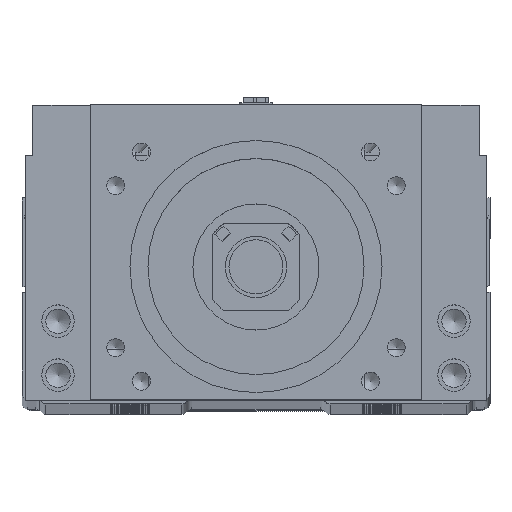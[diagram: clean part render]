
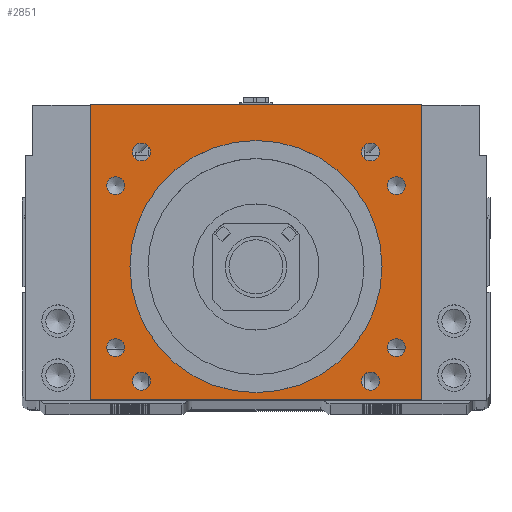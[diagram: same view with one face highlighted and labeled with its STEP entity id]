
A CAD part, top view. The second image highlights one B-rep face of the part: STEP entity #2851.
In plain terms, the highlighted planar face has unit normal (0, 0, 1).
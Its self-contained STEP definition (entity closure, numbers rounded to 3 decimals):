
#1964=FACE_BOUND('',#5139,.T.);
#1965=FACE_BOUND('',#5140,.T.);
#1966=FACE_BOUND('',#5141,.T.);
#1967=FACE_BOUND('',#5142,.T.);
#1968=FACE_BOUND('',#5143,.T.);
#1969=FACE_BOUND('',#5144,.T.);
#1970=FACE_BOUND('',#5145,.T.);
#1971=FACE_BOUND('',#5146,.T.);
#1972=FACE_BOUND('',#5147,.T.);
#1973=FACE_BOUND('',#5148,.T.);
#2851=ADVANCED_FACE('',(#1964,#1965,#1966,#1967,#1968,#1969,#1970,#1971,
#1972,#1973),#3640,.T.);
#3640=PLANE('',#17872);
#5139=EDGE_LOOP('',(#8363,#8364,#8365,#8366));
#5140=EDGE_LOOP('',(#8367));
#5141=EDGE_LOOP('',(#8368));
#5142=EDGE_LOOP('',(#8369));
#5143=EDGE_LOOP('',(#8370));
#5144=EDGE_LOOP('',(#8371));
#5145=EDGE_LOOP('',(#8372));
#5146=EDGE_LOOP('',(#8373));
#5147=EDGE_LOOP('',(#8374));
#5148=EDGE_LOOP('',(#8375));
#6273=CIRCLE('',#17862,35.015);
#6274=CIRCLE('',#17864,2.5);
#6275=CIRCLE('',#17865,2.5);
#6276=CIRCLE('',#17866,2.5);
#6277=CIRCLE('',#17867,2.5);
#6278=CIRCLE('',#17868,2.5);
#6279=CIRCLE('',#17869,2.5);
#6280=CIRCLE('',#17870,2.5);
#6281=CIRCLE('',#17871,2.5);
#8363=ORIENTED_EDGE('',*,*,#13268,.T.);
#8364=ORIENTED_EDGE('',*,*,#13256,.T.);
#8365=ORIENTED_EDGE('',*,*,#13263,.T.);
#8366=ORIENTED_EDGE('',*,*,#13273,.T.);
#8367=ORIENTED_EDGE('',*,*,#13281,.F.);
#8368=ORIENTED_EDGE('',*,*,#13282,.T.);
#8369=ORIENTED_EDGE('',*,*,#13283,.T.);
#8370=ORIENTED_EDGE('',*,*,#13284,.F.);
#8371=ORIENTED_EDGE('',*,*,#13280,.F.);
#8372=ORIENTED_EDGE('',*,*,#13285,.T.);
#8373=ORIENTED_EDGE('',*,*,#13286,.T.);
#8374=ORIENTED_EDGE('',*,*,#13287,.T.);
#8375=ORIENTED_EDGE('',*,*,#13288,.T.);
#11459=VERTEX_POINT('',#25474);
#11460=VERTEX_POINT('',#25476);
#11464=VERTEX_POINT('',#25487);
#11466=VERTEX_POINT('',#25498);
#11472=VERTEX_POINT('',#25522);
#11473=VERTEX_POINT('',#25525);
#11474=VERTEX_POINT('',#25527);
#11475=VERTEX_POINT('',#25529);
#11476=VERTEX_POINT('',#25531);
#11477=VERTEX_POINT('',#25533);
#11478=VERTEX_POINT('',#25535);
#11479=VERTEX_POINT('',#25537);
#11480=VERTEX_POINT('',#25539);
#13256=EDGE_CURVE('',#11460,#11459,#14984,.T.);
#13263=EDGE_CURVE('',#11459,#11464,#14989,.T.);
#13268=EDGE_CURVE('',#11466,#11460,#14994,.T.);
#13273=EDGE_CURVE('',#11464,#11466,#14999,.T.);
#13280=EDGE_CURVE('',#11472,#11472,#6273,.T.);
#13281=EDGE_CURVE('',#11473,#11473,#6274,.T.);
#13282=EDGE_CURVE('',#11474,#11474,#6275,.T.);
#13283=EDGE_CURVE('',#11475,#11475,#6276,.T.);
#13284=EDGE_CURVE('',#11476,#11476,#6277,.T.);
#13285=EDGE_CURVE('',#11477,#11477,#6278,.T.);
#13286=EDGE_CURVE('',#11478,#11478,#6279,.T.);
#13287=EDGE_CURVE('',#11479,#11479,#6280,.T.);
#13288=EDGE_CURVE('',#11480,#11480,#6281,.T.);
#14984=LINE('',#25475,#16313);
#14989=LINE('',#25489,#16318);
#14994=LINE('',#25497,#16323);
#14999=LINE('',#25506,#16328);
#16313=VECTOR('',#20630,1.);
#16318=VECTOR('',#20641,1.);
#16323=VECTOR('',#20652,1.);
#16328=VECTOR('',#20659,1.);
#17862=AXIS2_PLACEMENT_3D('',#25521,#20678,#20679);
#17864=AXIS2_PLACEMENT_3D('',#25524,#20682,#20683);
#17865=AXIS2_PLACEMENT_3D('',#25526,#20684,#20685);
#17866=AXIS2_PLACEMENT_3D('',#25528,#20686,#20687);
#17867=AXIS2_PLACEMENT_3D('',#25530,#20688,#20689);
#17868=AXIS2_PLACEMENT_3D('',#25532,#20690,#20691);
#17869=AXIS2_PLACEMENT_3D('',#25534,#20692,#20693);
#17870=AXIS2_PLACEMENT_3D('',#25536,#20694,#20695);
#17871=AXIS2_PLACEMENT_3D('',#25538,#20696,#20697);
#17872=AXIS2_PLACEMENT_3D('',#25540,#20698,#20699);
#20630=DIRECTION('',(-1.,0.,0.));
#20641=DIRECTION('',(0.,-1.,0.));
#20652=DIRECTION('',(0.,1.,0.));
#20659=DIRECTION('',(1.,0.,0.));
#20678=DIRECTION('',(0.,0.,1.));
#20679=DIRECTION('',(1.,0.,0.));
#20682=DIRECTION('',(0.,0.,1.));
#20683=DIRECTION('',(-1.,0.,0.));
#20684=DIRECTION('',(0.,0.,-1.));
#20685=DIRECTION('',(1.,0.,0.));
#20686=DIRECTION('',(0.,0.,-1.));
#20687=DIRECTION('',(1.,0.,0.));
#20688=DIRECTION('',(0.,0.,1.));
#20689=DIRECTION('',(-1.,0.,0.));
#20690=DIRECTION('',(0.,0.,-1.));
#20691=DIRECTION('',(1.,0.,0.));
#20692=DIRECTION('',(0.,0.,-1.));
#20693=DIRECTION('',(1.,0.,0.));
#20694=DIRECTION('',(0.,0.,-1.));
#20695=DIRECTION('',(1.,0.,0.));
#20696=DIRECTION('',(0.,0.,-1.));
#20697=DIRECTION('',(1.,0.,0.));
#20698=DIRECTION('',(0.,0.,1.));
#20699=DIRECTION('',(1.,0.,0.));
#25474=CARTESIAN_POINT('',(-46.,83.,100.));
#25475=CARTESIAN_POINT('',(0.,83.,100.));
#25476=CARTESIAN_POINT('',(46.,83.,100.));
#25487=CARTESIAN_POINT('',(-46.,1.,100.));
#25489=CARTESIAN_POINT('',(-46.,38.,100.));
#25497=CARTESIAN_POINT('',(46.,38.,100.));
#25498=CARTESIAN_POINT('',(46.,1.,100.));
#25506=CARTESIAN_POINT('',(0.,1.,100.));
#25521=CARTESIAN_POINT('',(0.,38.,100.));
#25522=CARTESIAN_POINT('',(35.015,38.,100.));
#25524=CARTESIAN_POINT('',(-38.971,15.5,100.));
#25525=CARTESIAN_POINT('',(-41.471,15.5,100.));
#25526=CARTESIAN_POINT('',(38.971,60.5,100.));
#25527=CARTESIAN_POINT('',(41.471,60.5,100.));
#25528=CARTESIAN_POINT('',(38.971,15.5,100.));
#25529=CARTESIAN_POINT('',(41.471,15.5,100.));
#25530=CARTESIAN_POINT('',(-38.971,60.5,100.));
#25531=CARTESIAN_POINT('',(-41.471,60.5,100.));
#25532=CARTESIAN_POINT('',(-31.82,69.82,100.));
#25533=CARTESIAN_POINT('',(-29.32,69.82,100.));
#25534=CARTESIAN_POINT('',(-31.82,6.18,100.));
#25535=CARTESIAN_POINT('',(-29.32,6.18,100.));
#25536=CARTESIAN_POINT('',(31.82,6.18,100.));
#25537=CARTESIAN_POINT('',(34.32,6.18,100.));
#25538=CARTESIAN_POINT('',(31.82,69.82,100.));
#25539=CARTESIAN_POINT('',(34.32,69.82,100.));
#25540=CARTESIAN_POINT('',(0.,38.,100.));
